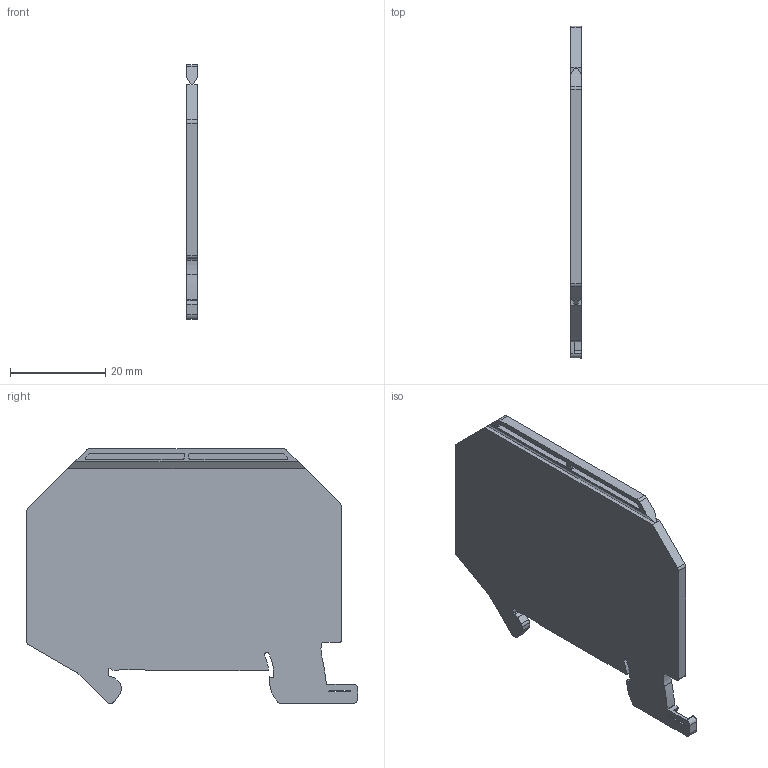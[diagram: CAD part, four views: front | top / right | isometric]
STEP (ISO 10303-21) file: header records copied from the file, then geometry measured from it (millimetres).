
FILE_DESCRIPTION( ('This file contains a STEP AP42 implementation' ,'as created by ZW3D STEP Interface translator.') ,'2;1' );
FILE_NAME( 'ATP-RUT-QUATTRO.stp' ,'23 729.133940', (''), ('ZWCAD Software Co.'), 'Version 1.0', 'ZW3D to STEP translator', '' );
FILE_SCHEMA(('AUTOMOTIVE_DESIGN { 1 0 10303 214 1 1 1 1 }'));
Length unit declared in the file: millimetre
Products named in the file (2): 0; ATP-RUT-QUATTRO
Bounding box: 2.2 x 69.75 x 53.55 mm (x, y, z)
Volume: 6521 mm3; surface area: 6835.6 mm2
Topology: 1 solids, 1 shells, 96 faces, 287 edges, 201 vertices
Faces by surface type: plane 50, cylinder 46
Entity records: 3418 total; most frequent: CARTESIAN_POINT 593, DIRECTION 562, ORIENTED_EDGE 556, EDGE_CURVE 278, AXIS2_PLACEMENT_3D 189, VERTEX_POINT 185, VECTOR 184, LINE 184
